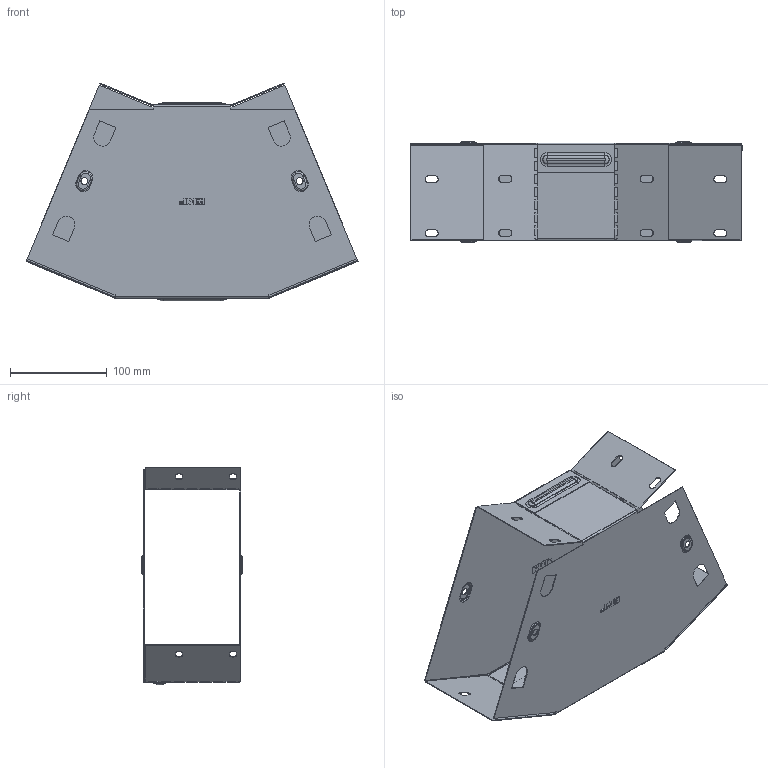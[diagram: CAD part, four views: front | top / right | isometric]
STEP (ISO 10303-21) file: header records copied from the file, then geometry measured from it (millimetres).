
FILE_DESCRIPTION (( 'STEP AP214' ), '1' );
FILE_NAME ('g45100200_捘.STEP', '2019-06-10T08:48:27', ( '砐錪賧瘔蠈錪 Windows' ), ( '' ), 'SwSTEP 2.0', 'SolidWorks 2018', '' );
FILE_SCHEMA (( 'AUTOMOTIVE_DESIGN' ));
Length unit declared in the file: millimetre
Products named in the file (1): g45100200_捘
Bounding box: 344.03 x 103.8 x 225.7 mm (x, y, z)
Volume: 134053.8 mm3; surface area: 338702 mm2
Topology: 2 solids, 2 shells, 626 faces, 1762 edges, 1112 vertices
Faces by surface type: plane 358, cylinder 186, torus 64, bspline 18
Entity records: 21102 total; most frequent: CARTESIAN_POINT 4520, ORIENTED_EDGE 3524, DIRECTION 3412, EDGE_CURVE 1762, VECTOR 1258, LINE 1258, VERTEX_POINT 1112, AXIS2_PLACEMENT_3D 1077
